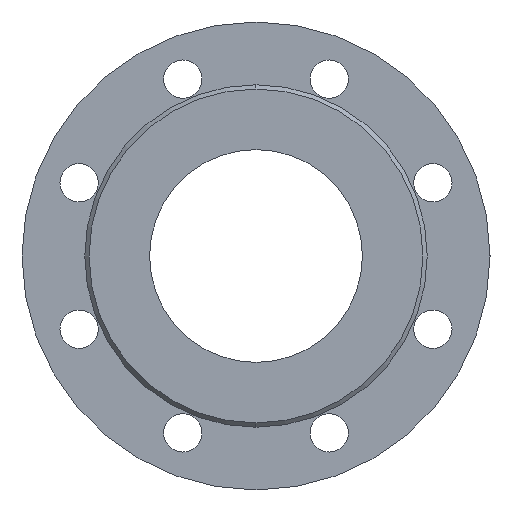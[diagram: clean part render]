
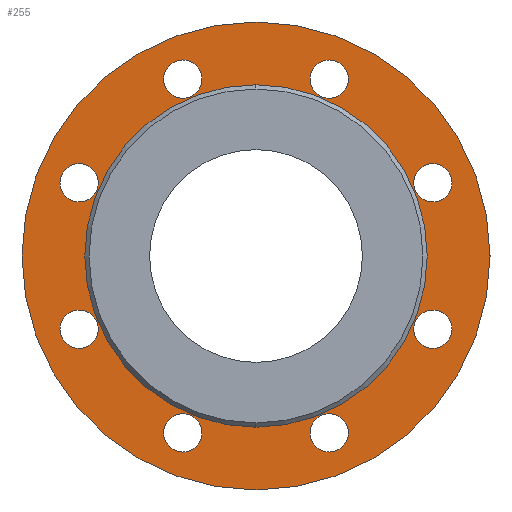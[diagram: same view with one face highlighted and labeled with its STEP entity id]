
A CAD part, left-side view. The second image highlights one B-rep face of the part: STEP entity #255.
In plain terms, the highlighted planar face has unit normal (-1, 0, 0).
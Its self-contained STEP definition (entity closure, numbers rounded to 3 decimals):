
#255=ADVANCED_FACE('',(#508,#509,#510,#511,#512,#513,#514,#515,#516,#517),#518,.F.);
#508=FACE_BOUND('',#767,.T.);
#509=FACE_BOUND('',#768,.T.);
#510=FACE_BOUND('',#769,.T.);
#511=FACE_BOUND('',#770,.T.);
#512=FACE_BOUND('',#771,.T.);
#513=FACE_BOUND('',#772,.T.);
#514=FACE_BOUND('',#773,.T.);
#515=FACE_BOUND('',#774,.T.);
#516=FACE_BOUND('',#775,.T.);
#517=FACE_OUTER_BOUND('',#776,.T.);
#518=PLANE('',#777);
#767=EDGE_LOOP('',(#1312,#1313));
#768=EDGE_LOOP('',(#1314,#1315));
#769=EDGE_LOOP('',(#1316,#1317));
#770=EDGE_LOOP('',(#1318,#1319));
#771=EDGE_LOOP('',(#1320,#1321));
#772=EDGE_LOOP('',(#1322,#1323));
#773=EDGE_LOOP('',(#1324,#1325));
#774=EDGE_LOOP('',(#1326,#1327));
#775=EDGE_LOOP('',(#1328,#1329));
#776=EDGE_LOOP('',(#1330,#1331));
#777=AXIS2_PLACEMENT_3D('',#1332,#1333,#1334);
#1312=ORIENTED_EDGE('',*,*,#1462,.T.);
#1313=ORIENTED_EDGE('',*,*,#1562,.T.);
#1314=ORIENTED_EDGE('',*,*,#1469,.T.);
#1315=ORIENTED_EDGE('',*,*,#1540,.T.);
#1316=ORIENTED_EDGE('',*,*,#1557,.T.);
#1317=ORIENTED_EDGE('',*,*,#1363,.T.);
#1318=ORIENTED_EDGE('',*,*,#1457,.T.);
#1319=ORIENTED_EDGE('',*,*,#1489,.T.);
#1320=ORIENTED_EDGE('',*,*,#1555,.T.);
#1321=ORIENTED_EDGE('',*,*,#1373,.T.);
#1322=ORIENTED_EDGE('',*,*,#1495,.T.);
#1323=ORIENTED_EDGE('',*,*,#1570,.T.);
#1324=ORIENTED_EDGE('',*,*,#1380,.T.);
#1325=ORIENTED_EDGE('',*,*,#1416,.T.);
#1326=ORIENTED_EDGE('',*,*,#1422,.T.);
#1327=ORIENTED_EDGE('',*,*,#1535,.T.);
#1328=ORIENTED_EDGE('',*,*,#1383,.T.);
#1329=ORIENTED_EDGE('',*,*,#1368,.T.);
#1330=ORIENTED_EDGE('',*,*,#1401,.F.);
#1331=ORIENTED_EDGE('',*,*,#1503,.F.);
#1332=CARTESIAN_POINT('',(2.0,0.0,0.));
#1333=DIRECTION('',(1.0,0.0,0.));
#1334=DIRECTION('',(0.,0.0,-1.0));
#1363=EDGE_CURVE('',#1596,#1594,#1597,.T.);
#1368=EDGE_CURVE('',#1605,#1603,#1606,.T.);
#1373=EDGE_CURVE('',#1614,#1612,#1615,.T.);
#1380=EDGE_CURVE('',#1621,#1625,#1627,.T.);
#1383=EDGE_CURVE('',#1603,#1605,#1630,.T.);
#1401=EDGE_CURVE('',#1659,#1662,#1663,.T.);
#1416=EDGE_CURVE('',#1625,#1621,#1687,.T.);
#1422=EDGE_CURVE('',#1691,#1695,#1697,.T.);
#1457=EDGE_CURVE('',#1750,#1754,#1756,.T.);
#1462=EDGE_CURVE('',#1763,#1761,#1764,.T.);
#1469=EDGE_CURVE('',#1770,#1774,#1776,.T.);
#1489=EDGE_CURVE('',#1754,#1750,#1804,.T.);
#1495=EDGE_CURVE('',#1808,#1812,#1814,.T.);
#1503=EDGE_CURVE('',#1662,#1659,#1822,.T.);
#1535=EDGE_CURVE('',#1695,#1691,#1860,.T.);
#1540=EDGE_CURVE('',#1774,#1770,#1865,.T.);
#1555=EDGE_CURVE('',#1612,#1614,#1882,.T.);
#1557=EDGE_CURVE('',#1594,#1596,#1884,.T.);
#1562=EDGE_CURVE('',#1761,#1763,#1889,.T.);
#1570=EDGE_CURVE('',#1812,#1808,#1897,.T.);
#1594=VERTEX_POINT('',#1925);
#1596=VERTEX_POINT('',#1928);
#1597=CIRCLE('',#1929,9.0);
#1603=VERTEX_POINT('',#1936);
#1605=VERTEX_POINT('',#1939);
#1606=CIRCLE('',#1940,9.0);
#1612=VERTEX_POINT('',#1947);
#1614=VERTEX_POINT('',#1950);
#1615=CIRCLE('',#1951,9.0);
#1621=VERTEX_POINT('',#1958);
#1625=VERTEX_POINT('',#1963);
#1627=CIRCLE('',#1966,9.0);
#1630=CIRCLE('',#1969,9.0);
#1659=VERTEX_POINT('',#2004);
#1662=VERTEX_POINT('',#2008);
#1663=CIRCLE('',#2009,110.0);
#1687=CIRCLE('',#2038,9.0);
#1691=VERTEX_POINT('',#2042);
#1695=VERTEX_POINT('',#2047);
#1697=CIRCLE('',#2050,9.0);
#1750=VERTEX_POINT('',#2107);
#1754=VERTEX_POINT('',#2112);
#1756=CIRCLE('',#2115,9.0);
#1761=VERTEX_POINT('',#2120);
#1763=VERTEX_POINT('',#2123);
#1764=CIRCLE('',#2124,50.0);
#1770=VERTEX_POINT('',#2131);
#1774=VERTEX_POINT('',#2136);
#1776=CIRCLE('',#2139,9.0);
#1804=CIRCLE('',#2167,9.0);
#1808=VERTEX_POINT('',#2171);
#1812=VERTEX_POINT('',#2176);
#1814=CIRCLE('',#2179,9.0);
#1822=CIRCLE('',#2189,110.0);
#1860=CIRCLE('',#2235,9.0);
#1865=CIRCLE('',#2242,9.0);
#1882=CIRCLE('',#2261,9.0);
#1884=CIRCLE('',#2263,9.0);
#1889=CIRCLE('',#2268,50.0);
#1897=CIRCLE('',#2276,9.0);
#1925=CARTESIAN_POINT('',(2.0,34.442,-92.149));
#1928=CARTESIAN_POINT('',(2.0,34.442,-74.149));
#1929=AXIS2_PLACEMENT_3D('',#2297,#2298,#2299);
#1936=CARTESIAN_POINT('',(2.0,-34.442,-92.149));
#1939=CARTESIAN_POINT('',(2.0,-34.442,-74.149));
#1940=AXIS2_PLACEMENT_3D('',#2305,#2306,#2307);
#1947=CARTESIAN_POINT('',(2.0,-34.442,74.149));
#1950=CARTESIAN_POINT('',(2.,-34.442,92.149));
#1951=AXIS2_PLACEMENT_3D('',#2313,#2314,#2315);
#1958=CARTESIAN_POINT('',(2.0,34.442,74.149));
#1963=CARTESIAN_POINT('',(2.,34.442,92.149));
#1966=AXIS2_PLACEMENT_3D('',#2325,#2326,#2327);
#1969=AXIS2_PLACEMENT_3D('',#2331,#2332,#2333);
#2004=CARTESIAN_POINT('',(2.,0.0,-110.0));
#2008=CARTESIAN_POINT('',(2.,0.,110.0));
#2009=AXIS2_PLACEMENT_3D('',#2359,#2360,#2361);
#2038=AXIS2_PLACEMENT_3D('',#2382,#2383,#2384);
#2042=CARTESIAN_POINT('',(2.0,-83.149,-43.442));
#2047=CARTESIAN_POINT('',(2.0,-83.149,-25.442));
#2050=AXIS2_PLACEMENT_3D('',#2393,#2394,#2395);
#2107=CARTESIAN_POINT('',(2.0,-83.149,25.442));
#2112=CARTESIAN_POINT('',(2.0,-83.149,43.442));
#2115=AXIS2_PLACEMENT_3D('',#2471,#2472,#2473);
#2120=CARTESIAN_POINT('',(2.0,0.,-50.0));
#2123=CARTESIAN_POINT('',(2.0,0.,50.0));
#2124=AXIS2_PLACEMENT_3D('',#2478,#2479,#2480);
#2131=CARTESIAN_POINT('',(2.0,83.149,-43.442));
#2136=CARTESIAN_POINT('',(2.0,83.149,-25.442));
#2139=AXIS2_PLACEMENT_3D('',#2490,#2491,#2492);
#2167=AXIS2_PLACEMENT_3D('',#2538,#2539,#2540);
#2171=CARTESIAN_POINT('',(2.0,83.149,25.442));
#2176=CARTESIAN_POINT('',(2.0,83.149,43.442));
#2179=AXIS2_PLACEMENT_3D('',#2549,#2550,#2551);
#2189=AXIS2_PLACEMENT_3D('',#2560,#2561,#2562);
#2235=AXIS2_PLACEMENT_3D('',#2604,#2605,#2606);
#2242=AXIS2_PLACEMENT_3D('',#2609,#2610,#2611);
#2261=AXIS2_PLACEMENT_3D('',#2623,#2624,#2625);
#2263=AXIS2_PLACEMENT_3D('',#2626,#2627,#2628);
#2268=AXIS2_PLACEMENT_3D('',#2632,#2633,#2634);
#2276=AXIS2_PLACEMENT_3D('',#2641,#2642,#2643);
#2297=CARTESIAN_POINT('',(2.0,34.442,-83.149));
#2298=DIRECTION('',(1.0,0.0,0.));
#2299=DIRECTION('',(0.,0.0,-1.0));
#2305=CARTESIAN_POINT('',(2.0,-34.442,-83.149));
#2306=DIRECTION('',(1.0,0.0,0.));
#2307=DIRECTION('',(0.,0.0,-1.0));
#2313=CARTESIAN_POINT('',(2.,-34.442,83.149));
#2314=DIRECTION('',(1.0,0.0,0.));
#2315=DIRECTION('',(0.,0.0,-1.0));
#2325=CARTESIAN_POINT('',(2.,34.442,83.149));
#2326=DIRECTION('',(1.0,0.0,0.));
#2327=DIRECTION('',(0.,0.0,-1.0));
#2331=CARTESIAN_POINT('',(2.0,-34.442,-83.149));
#2332=DIRECTION('',(1.0,0.0,0.));
#2333=DIRECTION('',(0.,0.0,-1.0));
#2359=CARTESIAN_POINT('',(2.0,0.0,0.));
#2360=DIRECTION('',(1.0,0.0,0.));
#2361=DIRECTION('',(0.,0.0,-1.0));
#2382=CARTESIAN_POINT('',(2.,34.442,83.149));
#2383=DIRECTION('',(1.0,0.0,0.));
#2384=DIRECTION('',(0.,0.0,-1.0));
#2393=CARTESIAN_POINT('',(2.0,-83.149,-34.442));
#2394=DIRECTION('',(1.0,0.0,0.));
#2395=DIRECTION('',(0.,0.0,-1.0));
#2471=CARTESIAN_POINT('',(2.0,-83.149,34.442));
#2472=DIRECTION('',(1.0,0.0,0.));
#2473=DIRECTION('',(0.,0.0,-1.0));
#2478=CARTESIAN_POINT('',(2.0,0.0,0.));
#2479=DIRECTION('',(1.0,0.0,0.));
#2480=DIRECTION('',(0.,0.0,-1.0));
#2490=CARTESIAN_POINT('',(2.0,83.149,-34.442));
#2491=DIRECTION('',(1.0,0.0,0.));
#2492=DIRECTION('',(0.,0.0,-1.0));
#2538=CARTESIAN_POINT('',(2.0,-83.149,34.442));
#2539=DIRECTION('',(1.0,0.0,0.));
#2540=DIRECTION('',(0.,0.0,-1.0));
#2549=CARTESIAN_POINT('',(2.0,83.149,34.442));
#2550=DIRECTION('',(1.0,0.0,0.));
#2551=DIRECTION('',(0.,0.0,-1.0));
#2560=CARTESIAN_POINT('',(2.0,0.0,0.));
#2561=DIRECTION('',(1.0,0.0,0.));
#2562=DIRECTION('',(0.,0.0,-1.0));
#2604=CARTESIAN_POINT('',(2.0,-83.149,-34.442));
#2605=DIRECTION('',(1.0,0.0,0.));
#2606=DIRECTION('',(0.,0.0,-1.0));
#2609=CARTESIAN_POINT('',(2.0,83.149,-34.442));
#2610=DIRECTION('',(1.0,0.0,0.));
#2611=DIRECTION('',(0.,0.0,-1.0));
#2623=CARTESIAN_POINT('',(2.,-34.442,83.149));
#2624=DIRECTION('',(1.0,0.0,0.));
#2625=DIRECTION('',(0.,0.0,-1.0));
#2626=CARTESIAN_POINT('',(2.0,34.442,-83.149));
#2627=DIRECTION('',(1.0,0.0,0.));
#2628=DIRECTION('',(0.,0.0,-1.0));
#2632=CARTESIAN_POINT('',(2.0,0.0,0.));
#2633=DIRECTION('',(1.0,0.0,0.));
#2634=DIRECTION('',(0.,0.0,-1.0));
#2641=CARTESIAN_POINT('',(2.0,83.149,34.442));
#2642=DIRECTION('',(1.0,0.0,0.));
#2643=DIRECTION('',(0.,0.0,-1.0));
